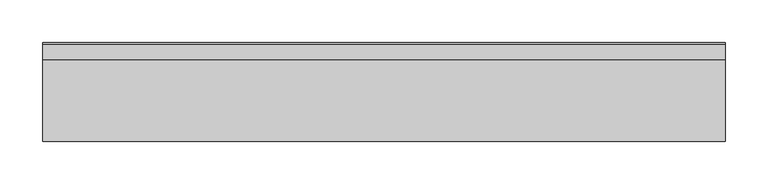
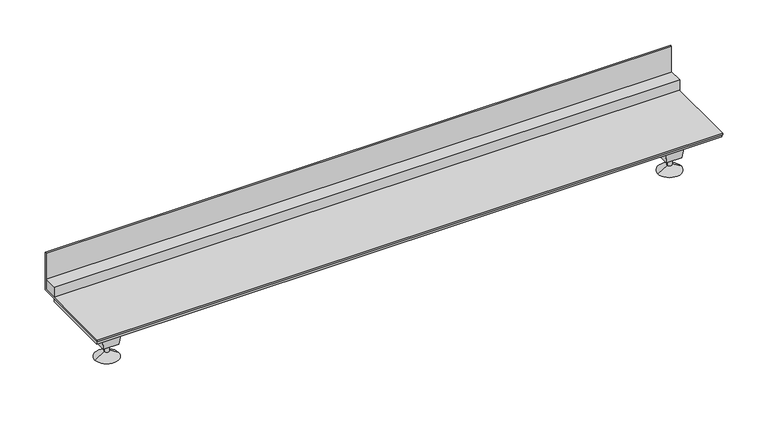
"""IFC4 building model written with IfcOpenShell, lengths in millimetres: sanitary terminal geometry, NLRS_PF_52_UN_Multi in_uitloop_Easydrain : Multi zijuitloop hoog 50mm, zij-ingang 40mm."""

from ifc_helpers import new_model, si_unit, frame, origin, place, context, project, spatial, polyline, circle_curve, outline, extrude, faceted_brep, source, transform, mapped, element, save
from ifc_brep_helpers import plane_surface, cylinder_surface, revolved_surface, advanced_brep


def sanitary_terminal_b07f8d72(model_context):
    return source(origin(), model_context, "Body", "SolidModel", [
        advanced_brep(
        [(513.0, 0.0, -60.0), (507.0, 0.0, -60.0), (510.0, 0.0, -60.0), (513.0, 0.0, -71.5), (507.0, 0.0, -71.5), (525.0, 0.0, -79.0), (495.0, 0.0, -79.0), (510.0, 0.0, -79.0)],
        [
            (0, 1, circle_curve(frame((510.0, 0.0, -60.0), z_axis=(0.0, 0.0, 1.0), x_axis=(-1.0, 0.0, 0.0)), 3.0)),
            (1, 2),
            (2, 0),
            (1, 0, circle_curve(frame((510.0, 0.0, -60.0), z_axis=(0.0, 0.0, 1.0), x_axis=(-1.0, 0.0, 0.0)), 3.0)),
            (3, 4, circle_curve(frame((510.0, 0.0, -71.5), z_axis=(0.0, 0.0, 1.0), x_axis=(-1.0, 0.0, 0.0)), 3.0)),
            (4, 1),
            (0, 3),
            (4, 3, circle_curve(frame((510.0, 0.0, -71.5), z_axis=(0.0, 0.0, 1.0), x_axis=(-1.0, 0.0, 0.0)), 3.0)),
            (5, 6, circle_curve(frame((510.0, 0.0, -79.0), z_axis=(0.0, 0.0, 1.0), x_axis=(-1.0, 0.0, 0.0)), 15.0)),
            (6, 4),
            (3, 5),
            (6, 5, circle_curve(frame((510.0, 0.0, -79.0), z_axis=(0.0, 0.0, 1.0), x_axis=(-1.0, 0.0, 0.0)), 15.0)),
            (7, 6),
            (5, 7),
        ],
        [
            plane_surface(frame((510.0, 0.0, -60.0), z_axis=(0.0, 0.0, 1.0), x_axis=(-1.0, 0.0, 0.0))),
            cylinder_surface(frame((510.0, 0.0, -87.1782032), z_axis=(0.0, 0.0, -1.0), x_axis=(-1.0, 0.0, 0.0)), 3.0),
            revolved_surface(polyline([(507.0, 0.0, -71.5), (495.0, 0.0, -79.0)]), (510.0, 0.0, -87.1782032), (0.0, 0.0, -1.0)),
            plane_surface(frame((510.0, 0.0, -79.0), z_axis=(0.0, 0.0, -1.0), x_axis=(-1.0, 0.0, 0.0))),
        ],
        [
            (0, [[1, 2, 3]]),
            (0, [[4, -3, -2]]),
            (1, [[5, 6, -1, 7]]),
            (1, [[8, -7, -4, -6]]),
            (2, [[9, 10, -5, 11]]),
            (2, [[12, -11, -8, -10]]),
            (3, [[13, -9, 14]]),
            (3, [[-14, -12, -13]]),
        ],
    ),
        faceted_brep([(500.0, 10.0, -60.0), (520.0, 10.0, -60.0), (520.0, -10.0, -60.0), (500.0, -10.0, -60.0), (495.0, 15.0, -20.0), (495.0, -15.0, -20.0), (525.0, -15.0, -20.0), (525.0, 15.0, -20.0)], [[[0, 1, 2, 3]], [[4, 5, 6, 7]], [[5, 4, 0, 3]], [[6, 5, 3, 2]], [[7, 6, 2, 1]], [[4, 7, 1, 0]]]),
        advanced_brep(
        [(-207.0, 0.0, -60.0), (-213.0, 0.0, -60.0), (-210.0, 0.0, -60.0), (-207.0, 0.0, -71.5), (-213.0, 0.0, -71.5), (-195.0, 0.0, -79.0), (-225.0, 0.0, -79.0), (-210.0, 0.0, -79.0)],
        [
            (0, 1, circle_curve(frame((-210.0, 0.0, -60.0), z_axis=(0.0, 0.0, 1.0), x_axis=(-1.0, 0.0, 0.0)), 3.0)),
            (1, 2),
            (2, 0),
            (1, 0, circle_curve(frame((-210.0, 0.0, -60.0), z_axis=(0.0, 0.0, 1.0), x_axis=(-1.0, 0.0, 0.0)), 3.0)),
            (3, 4, circle_curve(frame((-210.0, 0.0, -71.5), z_axis=(0.0, 0.0, 1.0), x_axis=(-1.0, 0.0, 0.0)), 3.0)),
            (4, 1),
            (0, 3),
            (4, 3, circle_curve(frame((-210.0, 0.0, -71.5), z_axis=(0.0, 0.0, 1.0), x_axis=(-1.0, 0.0, 0.0)), 3.0)),
            (5, 6, circle_curve(frame((-210.0, 0.0, -79.0), z_axis=(0.0, 0.0, 1.0), x_axis=(-1.0, 0.0, 0.0)), 15.0)),
            (6, 4),
            (3, 5),
            (6, 5, circle_curve(frame((-210.0, 0.0, -79.0), z_axis=(0.0, 0.0, 1.0), x_axis=(-1.0, 0.0, 0.0)), 15.0)),
            (7, 6),
            (5, 7),
        ],
        [
            plane_surface(frame((-210.0, 0.0, -60.0), z_axis=(0.0, 0.0, 1.0), x_axis=(-1.0, 0.0, 0.0))),
            cylinder_surface(frame((-210.0, 0.0, -87.1782032), z_axis=(0.0, 0.0, -1.0), x_axis=(-1.0, 0.0, 0.0)), 3.0),
            revolved_surface(polyline([(-213.0, 0.0, -71.5), (-225.0, 0.0, -79.0)]), (-210.0, 0.0, -87.1782032), (0.0, 0.0, -1.0)),
            plane_surface(frame((-210.0, 0.0, -79.0), z_axis=(0.0, 0.0, -1.0), x_axis=(-1.0, 0.0, 0.0))),
        ],
        [
            (0, [[1, 2, 3]]),
            (0, [[4, -3, -2]]),
            (1, [[5, 6, -1, 7]]),
            (1, [[8, -7, -4, -6]]),
            (2, [[9, 10, -5, 11]]),
            (2, [[12, -11, -8, -10]]),
            (3, [[13, -9, 14]]),
            (3, [[-14, -12, -13]]),
        ],
    ),
        faceted_brep([(-220.0, 10.0, -60.0), (-200.0, 10.0, -60.0), (-200.0, -10.0, -60.0), (-220.0, -10.0, -60.0), (-225.0, 15.0, -20.0), (-225.0, -15.0, -20.0), (-195.0, -15.0, -20.0), (-195.0, 15.0, -20.0)], [[[0, 1, 2, 3]], [[4, 5, 6, 7]], [[5, 4, 0, 3]], [[6, 5, 3, 2]], [[7, 6, 2, 1]], [[4, 7, 1, 0]]]),
        extrude(outline(polyline([(-49.0, -16.0), (-49.0, -14.0), (65.0, -14.0), (65.0, 35.0), (67.0, 35.0), (67.0, -16.0), (-49.0, -16.0)])), frame((-250.0, 0.0, 0.0), z_axis=(1.0, 0.0, 0.0), x_axis=(0.0, 1.0, 0.0)), (0.0, 0.0, 1.0), 800.0),
        extrude(outline(polyline([(550.0, 66.0), (550.0, 47.0), (-250.0, 47.0), (-250.0, 66.0), (550.0, 66.0)])), frame((0.0, 0.0, -15.0), z_axis=(0.0, 0.0, 1.0), x_axis=(1.0, 0.0, 0.0)), (0.0, 0.0, 1.0), 15.0),
        extrude(outline(polyline([(550.0, -47.0), (-250.0, -47.0), (-250.0, 47.0), (550.0, 47.0), (550.0, -47.0)])), frame((0.0, 0.0, -20.0), z_axis=(0.0, 0.0, 1.0), x_axis=(1.0, 0.0, 0.0)), (0.0, 0.0, 1.0), 5.0),
    ])


if __name__ == "__main__":
    model = new_model("IFC4")
    model_context = context("Model", 3, world=origin())
    ifc_project = project(units=[si_unit("LENGTHUNIT", "METRE", prefix="MILLI")], contexts=[model_context])
    site = spatial("IfcSite", under=ifc_project)
    building = spatial("IfcBuilding", under=site)
    placement = place(None, origin())
    sanitary_terminal_shape = sanitary_terminal_b07f8d72(model_context)
    element("IfcSanitaryTerminal", 1, ObjectType="NLRS_PF_52_UN_Multi in_uitloop_Easydrain : Multi zijuitloop hoog 50mm, zij-ingang 40mm", at=placement, inside=building, context=model_context, shape_type="MappedRepresentation", body=[
        mapped(sanitary_terminal_shape, transform((0.0, 0.0, 0.0), x_axis=(1.0, 0.0, 0.0), y_axis=(0.0, 1.0, 0.0), z_axis=(0.0, 0.0, 1.0))),
    ])
    save(model, "model.ifc")
